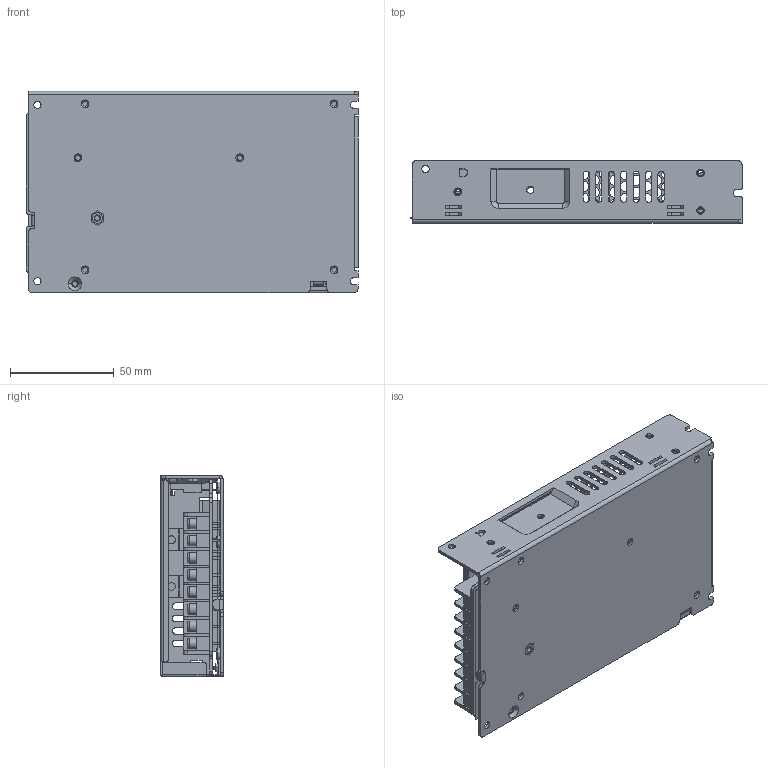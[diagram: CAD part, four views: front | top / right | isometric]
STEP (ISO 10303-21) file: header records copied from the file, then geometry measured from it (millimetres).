
FILE_DESCRIPTION((''),'2;1');
FILE_NAME('CMG-H150D12G_24G-ASM_2021-8-5_ASM','2021-08-06T12:12:22',('pd070'),(''),'CREO PARAMETRIC BY PTC INC, 2017260','CREO PARAMETRIC BY PTC INC, 2017260','');
FILE_SCHEMA(('CONFIG_CONTROL_DESIGN'));
Products named in the file (14): 130100162766_7; 130102000332-11_1; 130100162766_ASM_11_ASM; 130100122927_1; 130100122927_ASM_1_ASM; 140101074201_2; CMG-H150D12G-24G-V2_2; CON-85-8PAAA; TO-220_TO-3P__2_7AAAAAAAA_3; TO-220_2_7_1; TO-220_TO-3P__2_7AAABAAAA_3; CMG-H150D12G-24G-V2_ASM_11_ASM; CMG-H150D12G_24G-ASM_ASM_21_ASM; CMG-H150D12G_24G-ASM_2021-8-5_ASM
Assembly tree (13 placements, depth 4):
  CMG-H150D12G_24G-ASM_2021-8-5_ASM
    CMG-H150D12G_24G-ASM_ASM_21_ASM
      130100162766_ASM_11_ASM
        130100162766_7
        130102000332-11_1
      130100122927_ASM_1_ASM
        130100122927_1
      140101074201_2
      CMG-H150D12G-24G-V2_ASM_11_ASM
        CMG-H150D12G-24G-V2_2
        CON-85-8PAAA
        TO-220_TO-3P__2_7AAAAAAAA_3
        TO-220_2_7_1
        TO-220_TO-3P__2_7AAABAAAA_3
Bounding box: 160 x 30 x 97 mm (x, y, z)
Volume: 73190.2 mm3; surface area: 134573.6 mm2
Topology: 9 solids, 21 shells, 2154 faces, 6107 edges, 3938 vertices
Faces by surface type: cylinder 1259, plane 781, bspline 68, cone 30, torus 16
Entity records: 75072 total; most frequent: CARTESIAN_POINT 15129, DIRECTION 12727, ORIENTED_EDGE 12166, EDGE_CURVE 6107, AXIS2_PLACEMENT_3D 4751, VERTEX_POINT 3938, VECTOR 3225, LINE 3225
